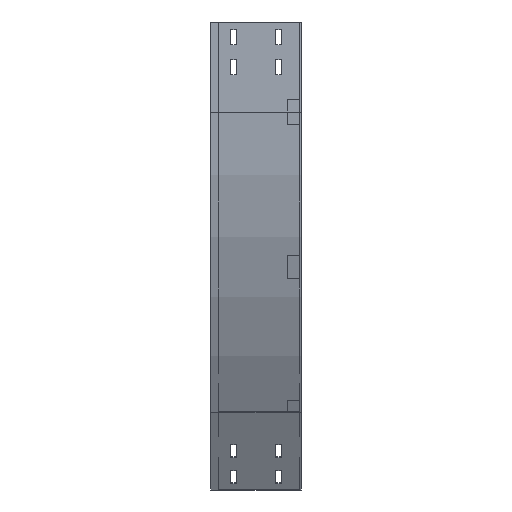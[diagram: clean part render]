
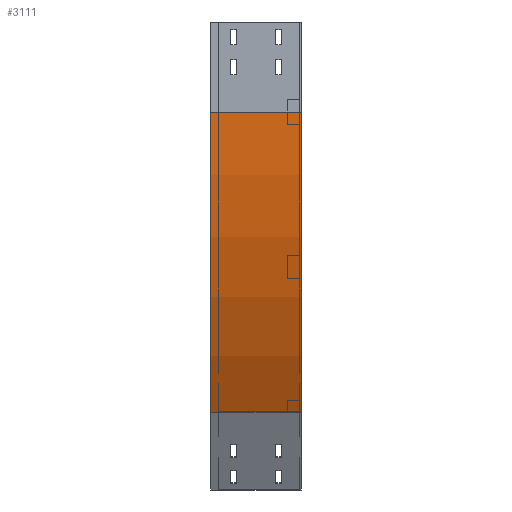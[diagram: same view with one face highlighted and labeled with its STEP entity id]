
A CAD part, left-side view. The second image highlights one B-rep face of the part: STEP entity #3111.
In plain terms, the highlighted cylindrical face has radius 1000 mm (diameter 2000 mm), a partial arc.
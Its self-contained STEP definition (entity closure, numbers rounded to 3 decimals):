
#101 = DIRECTION ( 'NONE',  ( 0., -1., 0. ) ) ;
#168 = EDGE_CURVE ( 'NONE', #293, #1808, #3051, .T. ) ;
#205 = EDGE_CURVE ( 'NONE', #1683, #3052, #2934, .T. ) ;
#206 = AXIS2_PLACEMENT_3D ( 'NONE', #2453, #987, #1825 ) ;
#293 = VERTEX_POINT ( 'NONE', #1665 ) ;
#429 = ORIENTED_EDGE ( 'NONE', *, *, #168, .F. ) ;
#578 = AXIS2_PLACEMENT_3D ( 'NONE', #2732, #1202, #2100 ) ;
#639 = CARTESIAN_POINT ( 'NONE',  ( 1000., 0., -150. ) ) ;
#718 = VECTOR ( 'NONE', #101, 1000. ) ;
#756 = CARTESIAN_POINT ( 'NONE',  ( 0., 0., -150. ) ) ;
#987 = DIRECTION ( 'NONE',  ( 0., -1., 0. ) ) ;
#1001 = LINE ( 'NONE', #756, #718 ) ;
#1021 = EDGE_CURVE ( 'NONE', #1683, #293, #1001, .T. ) ;
#1151 = DIRECTION ( 'NONE',  ( 0., -1., 0. ) ) ;
#1186 = CARTESIAN_POINT ( 'NONE',  ( 0., 150., -150. ) ) ;
#1197 = CYLINDRICAL_SURFACE ( 'NONE', #3169, 1000. ) ;
#1202 = DIRECTION ( 'NONE',  ( 0., -1., 0. ) ) ;
#1621 = EDGE_LOOP ( 'NONE', ( #429, #2558, #3251, #3109 ) ) ;
#1665 = CARTESIAN_POINT ( 'NONE',  ( 0., 0., -150. ) ) ;
#1667 = CARTESIAN_POINT ( 'NONE',  ( 133.975, 150., -650. ) ) ;
#1683 = VERTEX_POINT ( 'NONE', #1186 ) ;
#1799 = DIRECTION ( 'NONE',  ( 0., 0., -1. ) ) ;
#1808 = VERTEX_POINT ( 'NONE', #2715 ) ;
#1825 = DIRECTION ( 'NONE',  ( -1., 0., 0. ) ) ;
#2100 = DIRECTION ( 'NONE',  ( -1., 0., 0. ) ) ;
#2340 = FACE_OUTER_BOUND ( 'NONE', #1621, .T. ) ;
#2357 = CARTESIAN_POINT ( 'NONE',  ( 133.975, 0., -650. ) ) ;
#2453 = CARTESIAN_POINT ( 'NONE',  ( 1000., 0., -150. ) ) ;
#2558 = ORIENTED_EDGE ( 'NONE', *, *, #1021, .F. ) ;
#2715 = CARTESIAN_POINT ( 'NONE',  ( 133.975, 0., -650. ) ) ;
#2732 = CARTESIAN_POINT ( 'NONE',  ( 1000., 150., -150. ) ) ;
#2934 = CIRCLE ( 'NONE', #578, 1000. ) ;
#2997 = LINE ( 'NONE', #2357, #3271 ) ;
#3051 = CIRCLE ( 'NONE', #206, 1000. ) ;
#3052 = VERTEX_POINT ( 'NONE', #1667 ) ;
#3109 = ORIENTED_EDGE ( 'NONE', *, *, #3524, .T. ) ;
#3111 = ADVANCED_FACE ( 'NONE', ( #2340 ), #1197, .T. ) ;
#3169 = AXIS2_PLACEMENT_3D ( 'NONE', #639, #3532, #1799 ) ;
#3251 = ORIENTED_EDGE ( 'NONE', *, *, #205, .T. ) ;
#3271 = VECTOR ( 'NONE', #1151, 1000. ) ;
#3524 = EDGE_CURVE ( 'NONE', #3052, #1808, #2997, .T. ) ;
#3532 = DIRECTION ( 'NONE',  ( 0., -1., 0. ) ) ;
